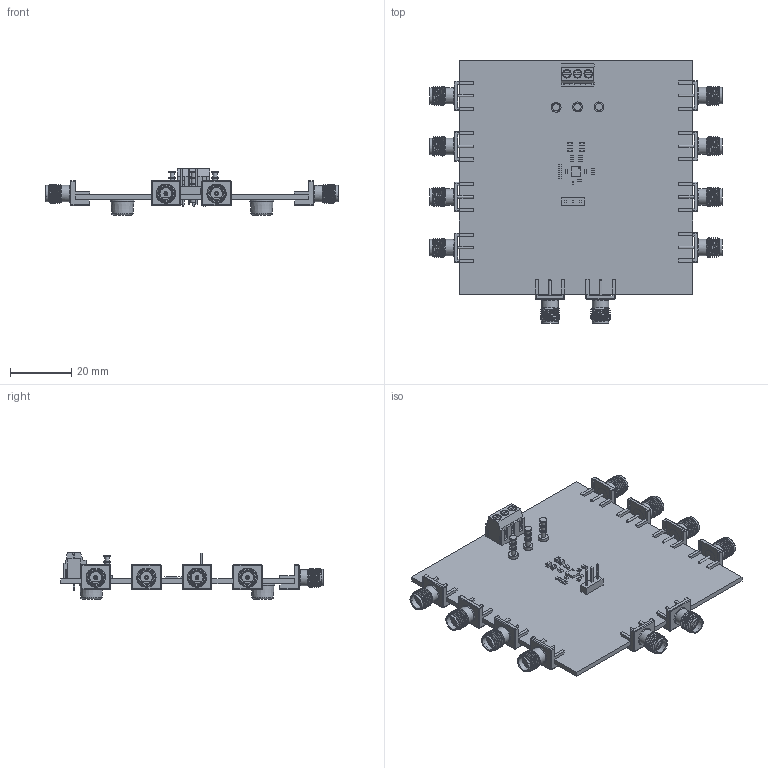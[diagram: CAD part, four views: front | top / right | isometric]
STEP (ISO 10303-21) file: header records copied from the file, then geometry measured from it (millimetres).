
FILE_DESCRIPTION(('Open CASCADE Model'),'2;1');
FILE_NAME('Open CASCADE Shape Model','2026-04-02T13:33:17',('Author'),( 'Open CASCADE'),'Open CASCADE STEP processor 7.5','Open CASCADE 7.5' ,'Unknown');
FILE_SCHEMA(('AUTOMOTIVE_DESIGN { 1 0 10303 214 1 1 1 1 }'));
Length unit declared in the file: millimetre
Products named in the file (73): PCB; Board; Open CASCADE STEP translator 7.5 1.1.1; J22; 6440638416; Extruded; 6440638256; J21; U2; 6440639136; 6440639056; R14; 6440637296; 6440637136; H6; SJxxA1; H5; H2; H1; J10; 691214110003; 691214110003_1; 691214110003_4; 691214110003_2; 691214110003_3; J23; 6440638896; 6440638576; J20; Conn_0732511150_CONN_RF_JACK; 1; 2; 3; 732511150; J18; C10; C9; C5; C6; C7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
Assembly tree (142 placements, depth 4):
  PCB
    Board
      Open CASCADE STEP translator 7.5 1.1.1
    J22
      6440638416  x2
        Extruded
      6440638256
        Extruded
    J21
      6440638416  x2
        Extruded
      6440638256
        Extruded
    U2
      6440639136
        Extruded
      6440639056
        Extruded
    R14
      6440637296  x2
        Extruded
      6440637136
        Extruded
    H6
      SJxxA1
    H5
      SJxxA1
    H2
      SJxxA1
    H1
      SJxxA1
    J10
      691214110003
        691214110003_1
        691214110003_4  x3
        691214110003_2  x3
        691214110003_3  x3
    J23
      6440638896  x3
        Extruded
      6440638576
        Extruded
    J20
      Conn_0732511150_CONN_RF_JACK
        1
        2
        3
        732511150
    J18
      Conn_0732511150_CONN_RF_JACK
        1
        2
        3
        732511150
    C10
      6440638416  x2
        Extruded
      6440638256
        Extruded
    C9
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Bounding box: 95.26 x 85.73 x 15.19 mm (x, y, z)
Volume: 13457.5 mm3; surface area: 21542.8 mm2
Topology: 118 solids, 158 shells, 1966 faces, 4476 edges, 2914 vertices
Faces by surface type: plane 1279, cylinder 474, cone 106, torus 47, sphere 40, bspline 20
Full cylindrical faces by diameter (mm): 0.762 x20, 0.947 x20, 1.016 x3, 1.27 x10, 1.3 x3, 1.4 x9, 1.5 x3, 1.8 x3, 1.9 x3, 2.29 x3, 2.36 x9, 2.5 x3, 2.8 x6, 3.2 x3, 3.912 x30, 4.449 x20, 4.644 x10, 5.359 x20, 7.925 x4
Entity records: 19424 total; most frequent: CARTESIAN_POINT 6387, DIRECTION 2252, ORIENTED_EDGE 2020, EDGE_CURVE 1010, AXIS2_PLACEMENT_3D 758, LINE 736, VECTOR 736, VERTEX_POINT 656
